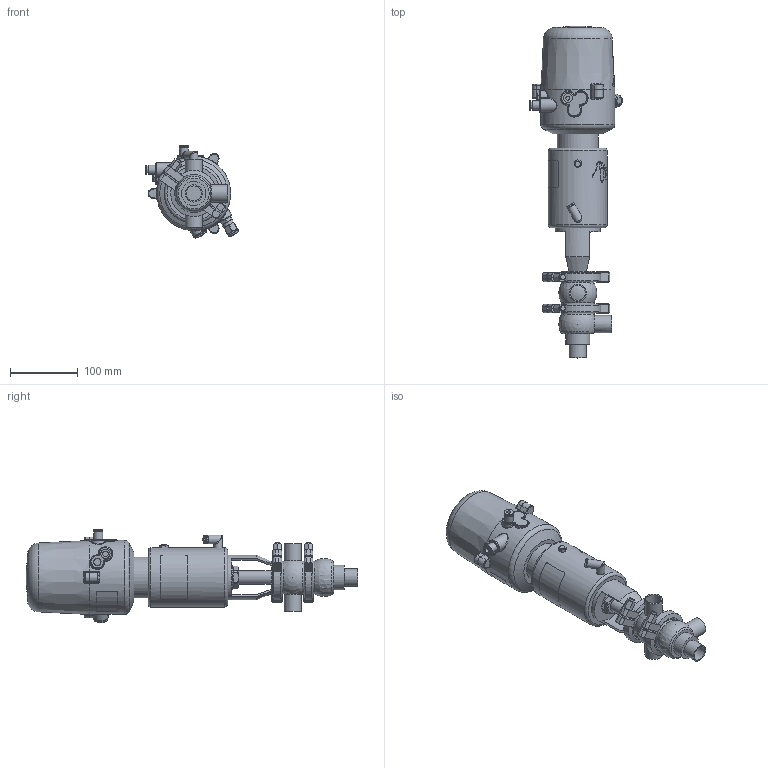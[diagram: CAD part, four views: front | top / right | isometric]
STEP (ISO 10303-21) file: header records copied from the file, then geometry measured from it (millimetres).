
FILE_DESCRIPTION (( 'STEP AP214' ), '1' );
FILE_NAME ('INNOVA K E W OD 1 T1 AS NC & C-TOP S_10.240.16.0076.STEP', '2024-08-06T09:18:03', ( '' ), ( '' ), 'SwSTEP 2.0', 'SolidWorks 2023', '' );
FILE_SCHEMA (( 'AUTOMOTIVE_DESIGN' ));
Length unit declared in the file: millimetre
Products named in the file (8): INNOVA K E W OD 1 T1 AS NC & C-TOP S_10.240.16.0076; 10.240.15.0014_T1 AS P0; 10.240.15.0007_OD 1"; 10.240.15.0002_OD 1"; 10.240.15.0017_Estàndard; 10.426.15.0001_C-TOP S - 1 EV; 10.240.15.0001_DN 025; 10.240.15.0010_DN 025
Assembly tree (8 placements, depth 2):
  INNOVA K E W OD 1 T1 AS NC & C-TOP S_10.240.16.0076
    10.240.15.0007_OD 1"
    10.240.15.0002_OD 1"
    10.240.15.0010_DN 025
    10.240.15.0014_T1 AS P0
    10.240.15.0017_Estàndard
    10.426.15.0001_C-TOP S - 1 EV
    10.240.15.0001_DN 025  x2
Bounding box: 136.88 x 489 x 137.63 mm (x, y, z)
Volume: 2493978.5 mm3; surface area: 229608.8 mm2
Topology: 8 solids, 8 shells, 1181 faces, 2852 edges, 1898 vertices
Faces by surface type: plane 411, cylinder 359, cone 205, bspline 160, torus 37, sphere 9
Full cylindrical faces by diameter (mm): 0.371 x17, 0.512 x16, 0.658 x16, 0.795 x16, 0.94 x15, 1.098 x15, 1.241 x13, 1.382 x13, 1.523 x11, 1.669 x10, 2.201 x1, 4 x2, 5.5 x2, 6 x2, 6.15 x1, 8 x6, 8.5 x1, 10 x1, 10.5 x1, 11 x2, 12.5 x3, 13 x2, 13.5 x2, 16 x1, 17 x3, 20 x3, 20.5 x1, 22 x2, 22.1 x4, 25.4 x4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
Entity records: 57191 total; most frequent: CARTESIAN_POINT 26795, ORIENTED_EDGE 4546, DIRECTION 3693, EDGE_CURVE 2273, VERTEX_POINT 1617, EDGE_LOOP 1582, AXIS2_PLACEMENT_3D 1514, FACE_OUTER_BOUND 1343
